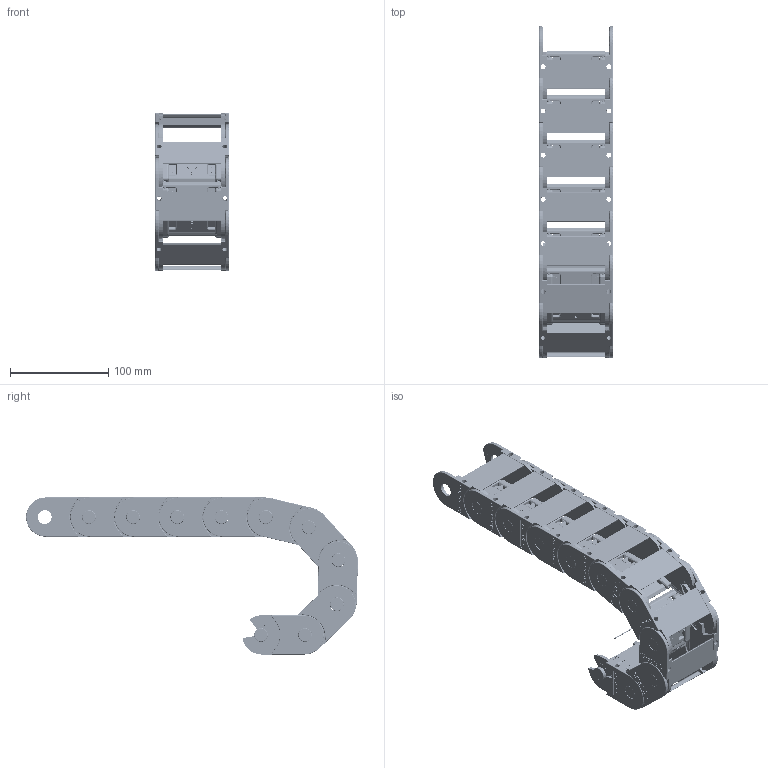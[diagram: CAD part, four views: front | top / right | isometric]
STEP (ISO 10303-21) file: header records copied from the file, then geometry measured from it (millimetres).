
FILE_DESCRIPTION((''),'2;1');
FILE_NAME('C:\Uebbing\PARAMETERKETTEN\KOLIBRI\Kol_40_075_2\Kol_40_075_2_R60.stp','2012-03-05T13:44:01',('Uebbing'),(''),'Autodesk Inventor 10','Autodesk Inventor 10','');
FILE_SCHEMA(('AUTOMOTIVE_DESIGN { 1 0 10303 214 1 1 1 1 }'));
Length unit declared in the file: millimetre
Products named in the file (5): KOLIBRI 40_075_2_PARAMETRISCH; Achse; Kol_40_075_2; Kol_40_075_2_Klappsteg
Assembly tree (13 placements, depth 3):
  KOLIBRI 40_075_2_PARAMETRISCH
    Achse
    Kol_40_075_2  x10
      Kol_40_075_2
      Kol_40_075_2_Klappsteg
Bounding box: 75 x 337.94 x 160 mm (x, y, z)
Volume: 351776.5 mm3; surface area: 240332.1 mm2
Topology: 21 solids, 21 shells, 8503 faces, 22604 edges, 14543 vertices
Faces by surface type: bspline 3550, plane 3242, cylinder 1451, torus 140, sphere 80, cone 40
Full cylindrical faces by diameter (mm): 1 x1, 1.609 x10, 2.825 x10, 3.4 x40, 3.5 x20, 4 x40, 5 x10, 6 x10, 14 x10, 14.1 x10
Entity records: 30452 total; most frequent: CARTESIAN_POINT 10845, ORIENTED_EDGE 4442, DIRECTION 3337, EDGE_CURVE 2221, VERTEX_POINT 1446, VECTOR 1273, LINE 1273, AXIS2_PLACEMENT_3D 1032
